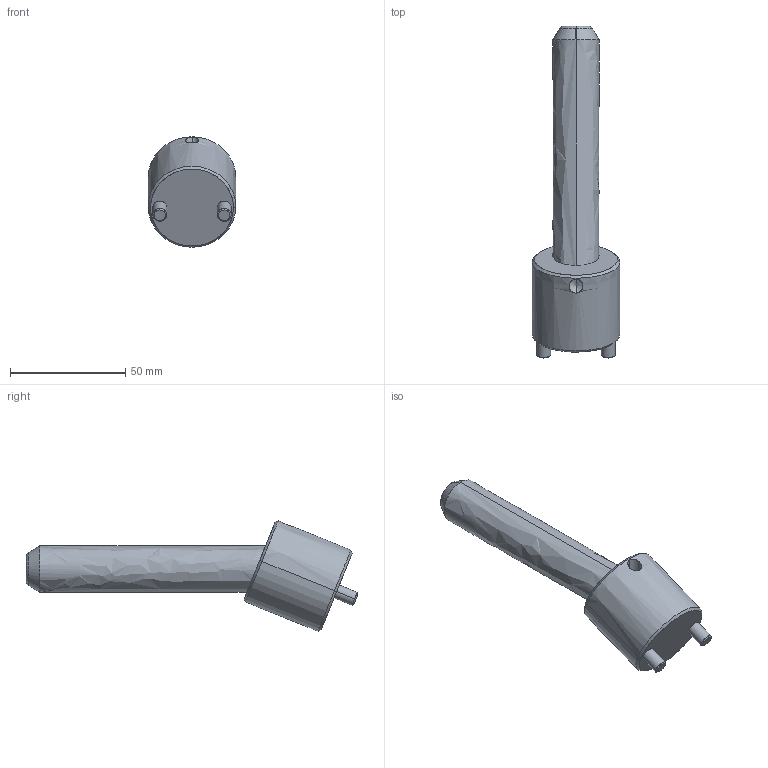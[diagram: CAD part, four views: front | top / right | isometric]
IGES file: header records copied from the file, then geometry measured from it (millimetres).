
Start section: START RECORD GO HERE.
Global section: file name: CI2220100.igs; native system: DASSAULT SYSTEMES CATIA V5 R20 - www.3ds.com; preprocessor: CATIA Version 5 Release 20 ; author: r.borello; organization: CFTORINO; date: 20190624.084940; units: millimetre
Bounding box: 38 x 144.16 x 47.97 mm (x, y, z)
Surface area: 17404 mm2 (no closed solid volume)
Topology: 0 solids, 0 shells, 39 faces, 162 edges, 160 vertices
Faces by surface type: revolution 32, plane 7
